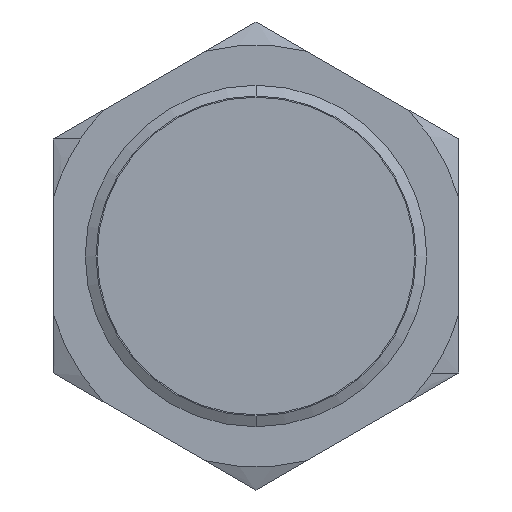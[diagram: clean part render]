
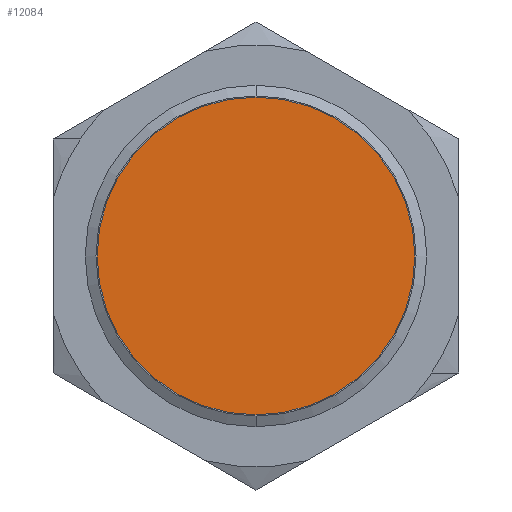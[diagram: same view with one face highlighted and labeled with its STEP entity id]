
A CAD part, left-side view. The second image highlights one B-rep face of the part: STEP entity #12084.
In plain terms, the highlighted planar face has unit normal (-1, 0, 0).
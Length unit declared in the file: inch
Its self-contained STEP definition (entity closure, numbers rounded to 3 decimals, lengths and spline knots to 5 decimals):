
#5307 = FACE_OUTER_BOUND ( 'NONE', #12024, .T. ) ;
#5308 = PLANE ( 'NONE',  #5309 ) ;
#5309 = AXIS2_PLACEMENT_3D ( 'NONE', #5310, #5311, #5312 ) ;
#5310 = CARTESIAN_POINT ( 'NONE',  ( -0.118, 0., -0.591 ) ) ;
#5311 = DIRECTION ( 'NONE',  ( 1., 0., 0. ) ) ;
#5312 = DIRECTION ( 'NONE',  ( 0., 0., -1. ) ) ;
#6781 = VERTEX_POINT ( 'NONE', #8153 ) ;
#7013 = VERTEX_POINT ( 'NONE', #8249 ) ;
#7418 = EDGE_CURVE ( 'NONE', #7013, #6781, #8471, .T. ) ;
#8153 = CARTESIAN_POINT ( 'NONE',  ( -0.118, 0., -0.041 ) ) ;
#8249 = CARTESIAN_POINT ( 'NONE',  ( -0.118, 0., -1.141 ) ) ;
#8471 = CIRCLE ( 'NONE', #8472, 0.55 ) ;
#8472 = AXIS2_PLACEMENT_3D ( 'NONE', #8473, #8474, #8475 ) ;
#8473 = CARTESIAN_POINT ( 'NONE',  ( -0.118, 0., -0.591 ) ) ;
#8474 = DIRECTION ( 'NONE',  ( 1., 0., 0. ) ) ;
#8475 = DIRECTION ( 'NONE',  ( 0., 0., -1. ) ) ;
#10238 = CIRCLE ( 'NONE', #10239, 0.55 ) ;
#10239 = AXIS2_PLACEMENT_3D ( 'NONE', #10240, #10241, #10242 ) ;
#10240 = CARTESIAN_POINT ( 'NONE',  ( -0.118, 0., -0.591 ) ) ;
#10241 = DIRECTION ( 'NONE',  ( 1., 0., 0. ) ) ;
#10242 = DIRECTION ( 'NONE',  ( 0., 0., -1. ) ) ;
#11231 = EDGE_CURVE ( 'NONE', #6781, #7013, #10238, .T. ) ;
#11627 = ORIENTED_EDGE ( 'NONE', *, *, #11231, .F. ) ;
#11873 = ORIENTED_EDGE ( 'NONE', *, *, #7418, .F. ) ;
#12024 = EDGE_LOOP ( 'NONE', ( #11873, #11627 ) ) ;
#12084 = ADVANCED_FACE ( 'NONE', ( #5307 ), #5308, .F. ) ;
